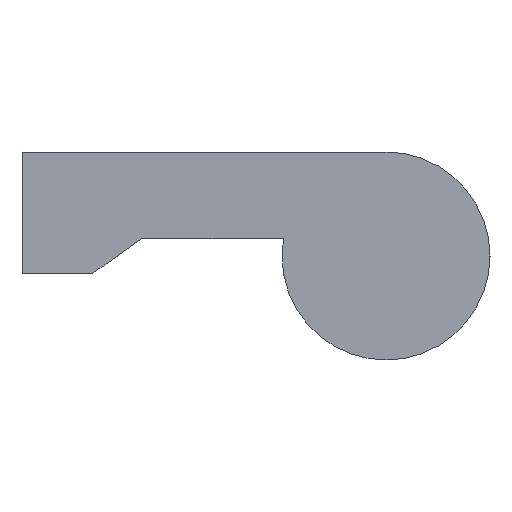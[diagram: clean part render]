
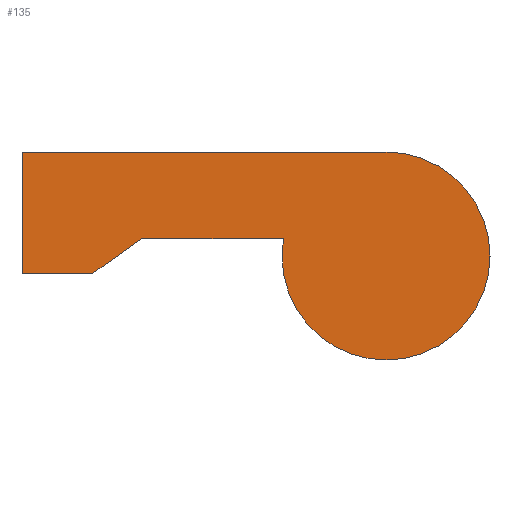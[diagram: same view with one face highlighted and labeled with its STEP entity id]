
A CAD part, left-side view. The second image highlights one B-rep face of the part: STEP entity #135.
In plain terms, the highlighted planar face has unit normal (-1, 0, 0).
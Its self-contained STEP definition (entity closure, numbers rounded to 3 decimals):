
#95 = VERTEX_POINT( '', #253 );
#109 = EDGE_CURVE( '', #115, #201, #269, .T. );
#115 = VERTEX_POINT( '', #275 );
#127 = EDGE_CURVE( '', #181, #227, #289, .T. );
#131 = EDGE_CURVE( '', #227, #171, #293, .T. );
#135 = ADVANCED_FACE( '', ( #297 ), #298, .F. );
#141 = VERTEX_POINT( '', #307 );
#157 = EDGE_CURVE( '', #201, #95, #326, .T. );
#171 = VERTEX_POINT( '', #340 );
#175 = EDGE_CURVE( '', #141, #115, #344, .T. );
#181 = VERTEX_POINT( '', #350 );
#185 = EDGE_CURVE( '', #171, #141, #354, .T. );
#201 = VERTEX_POINT( '', #371 );
#219 = EDGE_CURVE( '', #95, #181, #393, .T. );
#227 = VERTEX_POINT( '', #401 );
#253 = CARTESIAN_POINT( '', ( -6., -21., -9. ) );
#269 = LINE( '', #440, #441 );
#275 = CARTESIAN_POINT( '', ( -6., 0., 3. ) );
#289 = LINE( '', #465, #466 );
#293 = LINE( '', #472, #473 );
#297 = FACE_OUTER_BOUND( '', #479, .T. );
#298 = PLANE( '', #480 );
#307 = CARTESIAN_POINT( '', ( -6., 0., -4. ) );
#326 = CIRCLE( '', #515, 6. );
#340 = CARTESIAN_POINT( '', ( -6., -4.091, -4. ) );
#344 = LINE( '', #540, #541 );
#350 = CARTESIAN_POINT( '', ( -6., -15.084, -2. ) );
#354 = LINE( '', #554, #555 );
#371 = CARTESIAN_POINT( '', ( -6., -21., 3. ) );
#393 = CIRCLE( '', #603, 6. );
#401 = CARTESIAN_POINT( '', ( -6., -6.896, -2. ) );
#440 = CARTESIAN_POINT( '', ( -6., 0., 3. ) );
#441 = VECTOR( '', #649, 1. );
#465 = CARTESIAN_POINT( '', ( -6., -15.084, -2. ) );
#466 = VECTOR( '', #670, 1. );
#472 = CARTESIAN_POINT( '', ( -6., -6.896, -2. ) );
#473 = VECTOR( '', #674, 1. );
#479 = EDGE_LOOP( '', ( #677, #678, #679, #680, #681, #682, #683 ) );
#480 = AXIS2_PLACEMENT_3D( '', #684, #685, #686 );
#515 = AXIS2_PLACEMENT_3D( '', #734, #735, #736 );
#540 = CARTESIAN_POINT( '', ( -6., 0., -4. ) );
#541 = VECTOR( '', #745, 1. );
#554 = CARTESIAN_POINT( '', ( -6., -4.091, -4. ) );
#555 = VECTOR( '', #747, 1. );
#603 = AXIS2_PLACEMENT_3D( '', #799, #800, #801 );
#649 = DIRECTION( '', ( 0., -1., 0. ) );
#670 = DIRECTION( '', ( 0., 1., 0. ) );
#674 = DIRECTION( '', ( 0., 0.814, -0.58 ) );
#677 = ORIENTED_EDGE( '', *, *, #127, .F. );
#678 = ORIENTED_EDGE( '', *, *, #219, .F. );
#679 = ORIENTED_EDGE( '', *, *, #157, .F. );
#680 = ORIENTED_EDGE( '', *, *, #109, .F. );
#681 = ORIENTED_EDGE( '', *, *, #175, .F. );
#682 = ORIENTED_EDGE( '', *, *, #185, .F. );
#683 = ORIENTED_EDGE( '', *, *, #131, .F. );
#684 = CARTESIAN_POINT( '', ( -6., 0., 0. ) );
#685 = DIRECTION( '', ( 1., 0., 0. ) );
#686 = DIRECTION( '', ( 0., 0., -1. ) );
#734 = CARTESIAN_POINT( '', ( -6., -21., -3. ) );
#735 = DIRECTION( '', ( 1., 0., 0. ) );
#736 = DIRECTION( '', ( 0., 0., 1. ) );
#745 = DIRECTION( '', ( 0., 0., 1. ) );
#747 = DIRECTION( '', ( 0., 1., 0. ) );
#799 = CARTESIAN_POINT( '', ( -6., -21., -3. ) );
#800 = DIRECTION( '', ( 1., 0., 0. ) );
#801 = DIRECTION( '', ( 0., 0., 1. ) );
